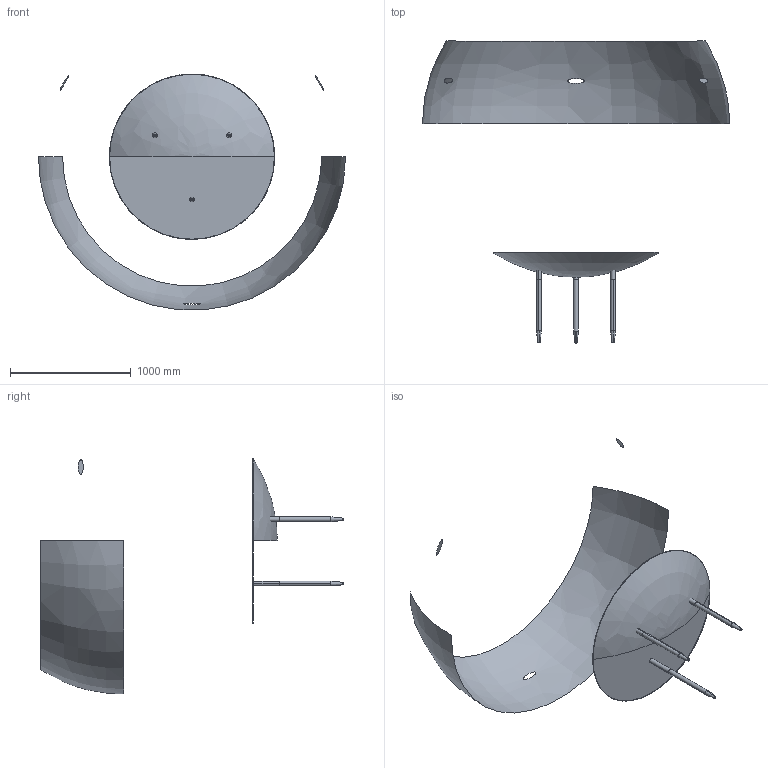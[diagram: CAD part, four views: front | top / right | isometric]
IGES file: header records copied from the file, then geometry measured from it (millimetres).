
Start section: SolidWorks IGES file using analytic representation for surfaces
Global section: file name: \\UTENTI\Dati Utenti\Tecnico\DC\2D - 3D per sito\3D\DeCastelli-3D-Roma 137.igs; native system: SolidWorks 2022; preprocessor: SolidWorks 2022; author: Silviad; date: 240711.172704; units: millimetre
Bounding box: 2546.12 x 2503.96 x 1955.11 mm (x, y, z)
Surface area: 6789654 mm2 (no closed solid volume)
Topology: 0 solids, 0 shells, 39 faces, 568 edges, 567 vertices
Faces by surface type: revolution 26, bspline 13
